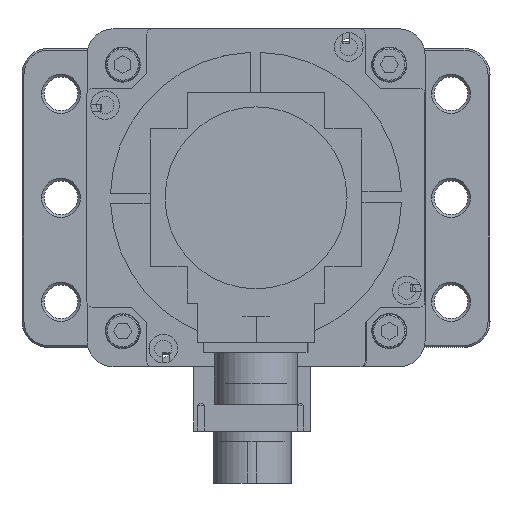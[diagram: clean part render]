
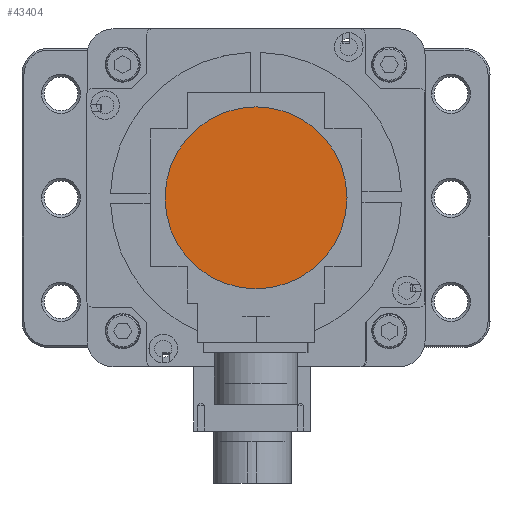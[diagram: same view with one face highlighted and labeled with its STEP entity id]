
A CAD part, front view. The second image highlights one B-rep face of the part: STEP entity #43404.
In plain terms, the highlighted planar face has unit normal (0, -1, 0) as drawn and (0, 0, 1) by its records, which use the part's own axes.
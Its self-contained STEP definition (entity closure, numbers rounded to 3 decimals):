
#42959=CARTESIAN_POINT('',(40.5,40.5,7.));
#42960=DIRECTION('',(0.,0.,1.));
#42961=DIRECTION('',(1.,0.,0.));
#42962=AXIS2_PLACEMENT_3D('',#42959,#42960,#42961);
#42964=CARTESIAN_POINT('',(40.5,40.5,7.));
#42965=DIRECTION('',(0.,0.,1.));
#42966=DIRECTION('',(-1.,0.,0.));
#42967=AXIS2_PLACEMENT_3D('',#42964,#42965,#42966);
#43010=CARTESIAN_POINT('',(5.5,40.5,7.));
#43012=VERTEX_POINT('',#43010);
#43065=CARTESIAN_POINT('',(75.5,40.5,7.));
#43066=VERTEX_POINT('',#43065);
#43395=CARTESIAN_POINT('',(40.5,40.5,7.));
#43396=DIRECTION('',(0.,0.,1.));
#43397=DIRECTION('',(1.,0.,0.));
#43398=AXIS2_PLACEMENT_3D('',#43395,#43396,#43397);
#43399=PLANE('',#43398);
#43400=ORIENTED_EDGE('',*,*,#43387,.F.);
#43401=ORIENTED_EDGE('',*,*,#43377,.F.);
#43402=EDGE_LOOP('',(#43400,#43401));
#43403=FACE_OUTER_BOUND('',#43402,.F.);
#43404=ADVANCED_FACE('',(#43403),#43399,.T.);
#42963=CIRCLE('',#42962,35.);
#42968=CIRCLE('',#42967,35.);
#43377=EDGE_CURVE('',#43012,#43066,#42968,.T.);
#43387=EDGE_CURVE('',#43066,#43012,#42963,.T.);
